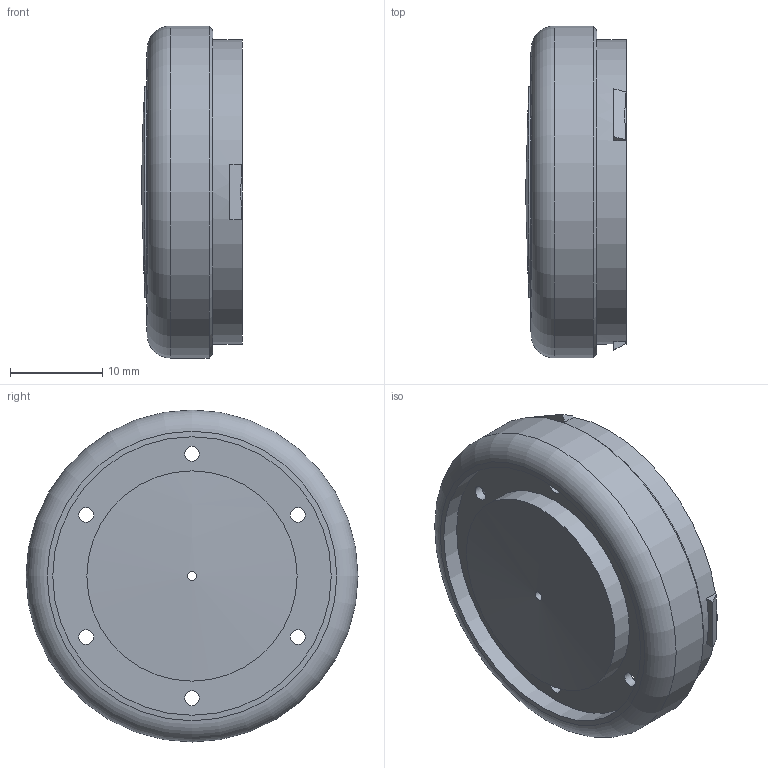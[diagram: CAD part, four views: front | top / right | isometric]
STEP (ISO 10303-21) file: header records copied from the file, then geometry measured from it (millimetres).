
FILE_DESCRIPTION(('Open CASCADE Model'),'2;1');
FILE_NAME('Open CASCADE Shape Model','2026-11-01T16:32:26',('Author'),( 'Open CASCADE'),'Open CASCADE STEP processor 8.0','build123d', 'Unknown');
FILE_SCHEMA(('AUTOMOTIVE_DESIGN { 1 0 10303 214 1 1 1 1 }'));
Length unit declared in the file: millimetre
Products named in the file (1): COMPOUND
Bounding box: 10.9 x 36 x 36 mm (x, y, z)
Volume: 3804 mm3; surface area: 4121.5 mm2
Topology: 1 solids, 1 shells, 38 faces, 87 edges, 56 vertices
Faces by surface type: plane 22, cylinder 12, sphere 2, cone 1, torus 1
Full cylindrical faces by diameter (mm): 1 x1, 1.6 x6, 22.8 x1, 30.2 x1, 31 x1, 33 x1, 36 x1
Entity records: 2349 total; most frequent: CARTESIAN_POINT 545, DIRECTION 348, LINE 185, VECTOR 185, ORIENTED_EDGE 174, PCURVE 174, DEFINITIONAL_REPRESENTATION 174, EDGE_CURVE 87
